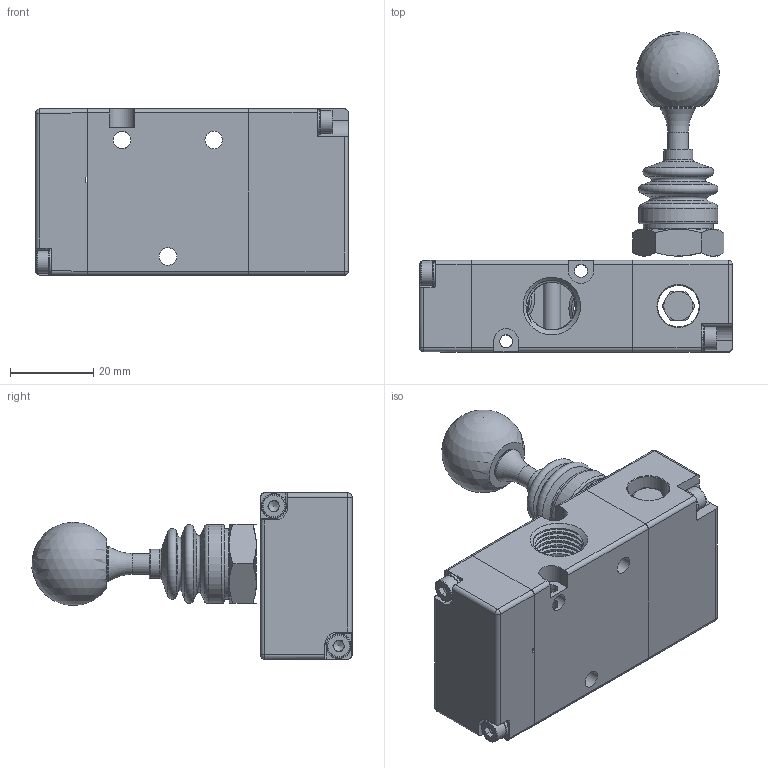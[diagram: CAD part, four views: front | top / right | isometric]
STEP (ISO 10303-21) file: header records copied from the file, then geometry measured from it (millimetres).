
FILE_DESCRIPTION (( 'STEP AP214' ), '1' );
FILE_NAME ('282402.STEP', '2013-09-17T14:13:06', ( 'ST01' ), ( '' ), 'SwSTEP 2.0', 'SolidWorks 2012', '' );
FILE_SCHEMA (( 'AUTOMOTIVE_DESIGN' ));
Length unit declared in the file: millimetre
Products named in the file (1): 282402
Bounding box: 75.2 x 76.93 x 40 mm (x, y, z)
Surface area: 18125 mm2 (no closed solid volume)
Topology: 0 solids, 16 shells, 245 faces, 716 edges, 468 vertices
Faces by surface type: plane 104, cylinder 77, cone 30, torus 23, bspline 6, sphere 5
Full cylindrical faces by diameter (mm): 3.1 x3, 4.2 x3, 5 x1, 5.5 x4, 7 x1, 8.5 x1, 10 x2, 11.445 x15, 16.9 x1, 19 x1
Entity records: 12970 total; most frequent: CARTESIAN_POINT 4863, DIRECTION 1144, ORIENTED_EDGE 1010, EDGE_CURVE 603, AXIS2_PLACEMENT_3D 427, VERTEX_POINT 422, EDGE_LOOP 310, VECTOR 290
